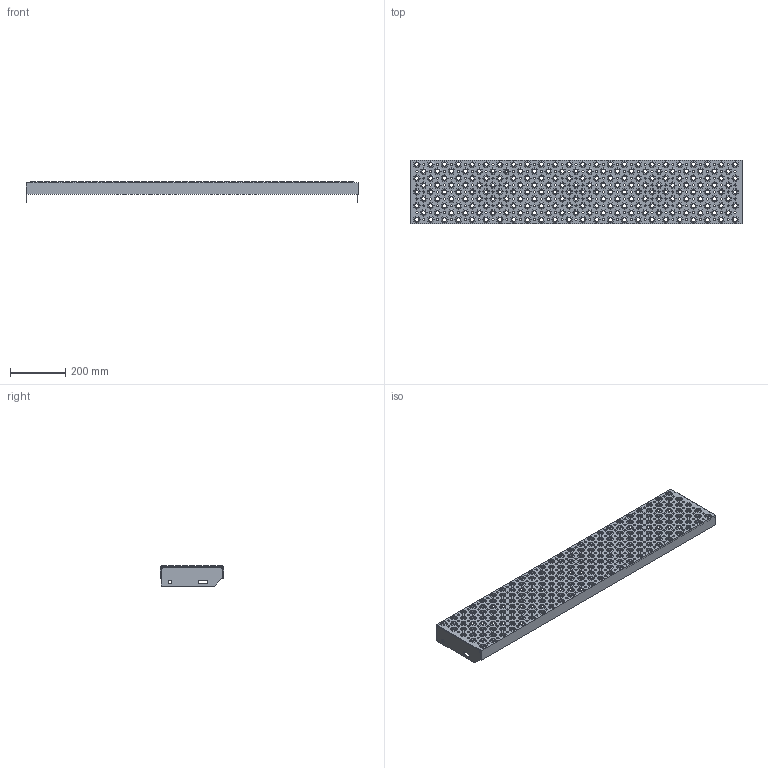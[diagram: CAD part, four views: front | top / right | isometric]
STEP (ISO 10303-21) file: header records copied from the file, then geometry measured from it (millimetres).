
FILE_DESCRIPTION(('Open CASCADE Model'),'2;1');
FILE_NAME('Open CASCADE Shape Model','2020-06-30T11:20:05',('Author'),( 'Open CASCADE'),'Open CASCADE STEP processor 7.2','Open CASCADE 7.2' ,'Unknown');
FILE_SCHEMA(('AUTOMOTIVE_DESIGN { 1 0 10303 214 1 1 1 1 }'));
Length unit declared in the file: millimetre
Products named in the file (8917): Open CASCADE STEP translator 7.2 1; Open CASCADE STEP translator 7.2 2; Open CASCADE STEP translator 7.2 3; Open CASCADE STEP translator 7.2 3.1; Open CASCADE STEP translator 7.2 3.2; Open CASCADE STEP translator 7.2 3.3; Open CASCADE STEP translator 7.2 3.4; Open CASCADE STEP translator 7.2 3.5; Open CASCADE STEP translator 7.2 3.6; Open CASCADE STEP translator 7.2 3.7; Open CASCADE STEP translator 7.2 3.8; Open CASCADE STEP translator 7.2 3.9; Open CASCADE STEP translator 7.2 3.10; Open CASCADE STEP translator 7.2 3.11; Open CASCADE STEP translator 7.2 3.12; Open CASCADE STEP translator 7.2 3.13; Open CASCADE STEP translator 7.2 3.14; Open CASCADE STEP translator 7.2 3.15; Open CASCADE STEP translator 7.2 3.16; Open CASCADE STEP translator 7.2 3.17; Open CASCADE STEP translator 7.2 3.18; Open CASCADE STEP translator 7.2 3.19; Open CASCADE STEP translator 7.2 3.20; Open CASCADE STEP translator 7.2 3.21; Open CASCADE STEP translator 7.2 3.22; Open CASCADE STEP translator 7.2 3.23; Open CASCADE STEP translator 7.2 3.24; Open CASCADE STEP translator 7.2 3.25; Open CASCADE STEP translator 7.2 3.26; Open CASCADE STEP translator 7.2 3.27; Open CASCADE STEP translator 7.2 3.28; Open CASCADE STEP translator 7.2 3.29; Open CASCADE STEP translator 7.2 3.30; Open CASCADE STEP translator 7.2 3.31; Open CASCADE STEP translator 7.2 3.32; Open CASCADE STEP translator 7.2 3.33; Open CASCADE STEP translator 7.2 3.34; Open CASCADE STEP translator 7.2 3.35; Open CASCADE STEP translator 7.2 3.36; Open CASCADE STEP translator 7.2 3.37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
Assembly tree (8914 placements, depth 2):
  Open CASCADE STEP translator 7.2 1
  Open CASCADE STEP translator 7.2 2
  Open CASCADE STEP translator 7.2 3
    Open CASCADE STEP translator 7.2 3.1
    Open CASCADE STEP translator 7.2 3.2
    Open CASCADE STEP translator 7.2 3.3
    Open CASCADE STEP translator 7.2 3.4
    Open CASCADE STEP translator 7.2 3.5
    Open CASCADE STEP translator 7.2 3.6
    Open CASCADE STEP translator 7.2 3.7
    Open CASCADE STEP translator 7.2 3.8
    Open CASCADE STEP translator 7.2 3.9
    Open CASCADE STEP translator 7.2 3.10
    Open CASCADE STEP translator 7.2 3.11
    Open CASCADE STEP translator 7.2 3.12
    Open CASCADE STEP translator 7.2 3.13
    Open CASCADE STEP translator 7.2 3.14
    Open CASCADE STEP translator 7.2 3.15
    Open CASCADE STEP translator 7.2 3.16
    Open CASCADE STEP translator 7.2 3.17
    Open CASCADE STEP translator 7.2 3.18
    Open CASCADE STEP translator 7.2 3.19
    Open CASCADE STEP translator 7.2 3.20
    Open CASCADE STEP translator 7.2 3.21
    Open CASCADE STEP translator 7.2 3.22
    Open CASCADE STEP translator 7.2 3.23
    Open CASCADE STEP translator 7.2 3.24
    Open CASCADE STEP translator 7.2 3.25
    Open CASCADE STEP translator 7.2 3.26
    Open CASCADE STEP translator 7.2 3.27
    Open CASCADE STEP translator 7.2 3.28
    Open CASCADE STEP translator 7.2 3.29
    Open CASCADE STEP translator 7.2 3.30
    Open CASCADE STEP translator 7.2 3.31
    Open CASCADE STEP translator 7.2 3.32
    Open CASCADE STEP translator 7.2 3.33
    Open CASCADE STEP translator 7.2 3.34
    Open CASCADE STEP translator 7.2 3.35
    Open CASCADE STEP translator 7.2 3.36
    Open CASCADE STEP translator 7.2 3.37
    Open CASCADE STEP translator 7.2 3.38
    Open CASCADE STEP translator 7.2 3.39
    Open CASCADE STEP translator 7.2 3.40
    Open CASCADE STEP translator 7.2 3.41
    Open CASCADE STEP translator 7.2 3.42
    Open CASCADE STEP translator 7.2 3.43
    Open CASCADE STEP translator 7.2 3.44
    Open CASCADE STEP translator 7.2 3.45
    Open CASCADE STEP translator 7.2 3.46
    Open CASCADE STEP translator 7.2 3.47
    Open CASCADE STEP translator 7.2 3.48
    Open CASCADE STEP translator 7.2 3.49
    Open CASCADE STEP translator 7.2 3.50
    Open CASCADE STEP translator 7.2 3.51
    Open CASCADE STEP translator 7.2 3.52
    Open CASCADE STEP translator 7.2 3.53
    Open CASCADE STEP translator 7.2 3.54
    Open CASCADE STEP translator 7.2 3.55
    Open CASCADE STEP translator 7.2 3.56
    Open CASCADE STEP translator 7.2 3.57
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Bounding box: 1200 x 230 x 73 mm (x, y, z)
Volume: 83595.2 mm3; surface area: 936581.1 mm2
Topology: 2 solids, 8916 shells, 8942 faces, 51000 edges, 50976 vertices
Faces by surface type: plane 8936, cylinder 6
Full cylindrical faces by diameter (mm): 13 x2
Entity records: 1017868 total; most frequent: CARTESIAN_POINT 170953, DIRECTION 137770, LINE 102024, VECTOR 102024, ORIENTED_EDGE 51072, PCURVE 51072, DEFINITIONAL_REPRESENTATION 51072, EDGE_CURVE 51000
